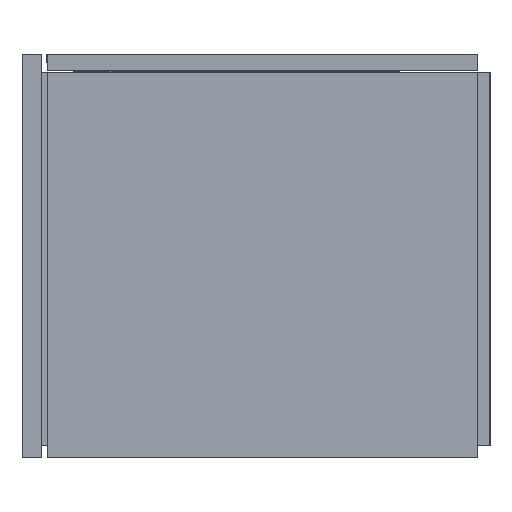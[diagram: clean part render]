
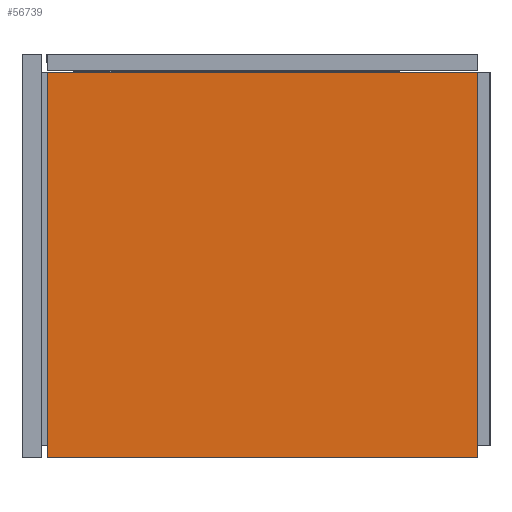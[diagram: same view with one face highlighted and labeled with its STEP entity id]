
A CAD part, left-side view. The second image highlights one B-rep face of the part: STEP entity #56739.
In plain terms, the highlighted planar face has unit normal (-1, 0, 0).
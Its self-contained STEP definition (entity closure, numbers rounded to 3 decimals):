
#5950=FACE_OUTER_BOUND('',#9030,.T.);
#9030=EDGE_LOOP('',(#37579,#37580,#37581,#37582));
#12461=LINE('',#85259,#18278);
#12464=LINE('',#85265,#18281);
#12465=LINE('',#85267,#18282);
#12466=LINE('',#85268,#18283);
#18278=VECTOR('',#67283,0.394);
#18281=VECTOR('',#67288,0.394);
#18282=VECTOR('',#67289,0.394);
#18283=VECTOR('',#67290,0.394);
#24083=VERTEX_POINT('',#85256);
#24084=VERTEX_POINT('',#85258);
#24086=VERTEX_POINT('',#85264);
#24087=VERTEX_POINT('',#85266);
#29362=EDGE_CURVE('',#24084,#24083,#12461,.T.);
#29365=EDGE_CURVE('',#24083,#24086,#12464,.T.);
#29366=EDGE_CURVE('',#24087,#24086,#12465,.T.);
#29367=EDGE_CURVE('',#24087,#24084,#12466,.T.);
#37579=ORIENTED_EDGE('',*,*,#29365,.T.);
#37580=ORIENTED_EDGE('',*,*,#29366,.F.);
#37581=ORIENTED_EDGE('',*,*,#29367,.T.);
#37582=ORIENTED_EDGE('',*,*,#29362,.T.);
#53878=PLANE('',#61114);
#56739=ADVANCED_FACE('',(#5950),#53878,.T.);
#61114=AXIS2_PLACEMENT_3D('',#85263,#67286,#67287);
#67283=DIRECTION('',(0.,-1.,0.));
#67286=DIRECTION('center_axis',(-1.,0.,0.));
#67287=DIRECTION('ref_axis',(0.,0.,-1.));
#67288=DIRECTION('',(0.,0.,1.));
#67289=DIRECTION('',(0.,-1.,0.));
#67290=DIRECTION('',(0.,0.,-1.));
#85256=CARTESIAN_POINT('',(0.,-27.069,-25.));
#85258=CARTESIAN_POINT('',(0.,-0.375,-25.));
#85259=CARTESIAN_POINT('',(0.,-0.375,-25.));
#85263=CARTESIAN_POINT('Origin',(0.,-0.375,-1.125));
#85264=CARTESIAN_POINT('',(0.,-27.069,-1.125));
#85265=CARTESIAN_POINT('',(0.,-27.069,-7.094));
#85266=CARTESIAN_POINT('',(0.,-0.375,-1.125));
#85267=CARTESIAN_POINT('',(0.,-0.375,-1.125));
#85268=CARTESIAN_POINT('',(0.,-0.375,-1.125));
